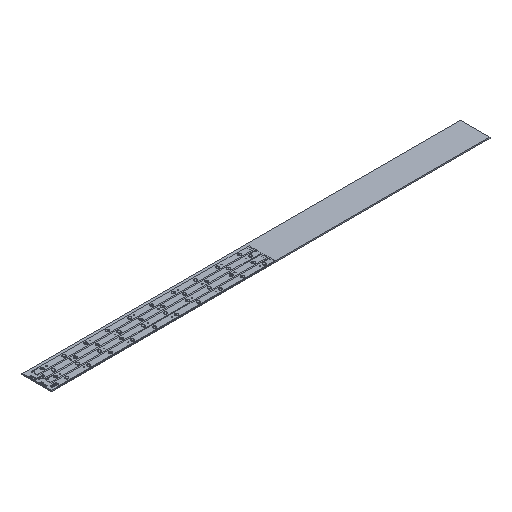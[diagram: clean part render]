
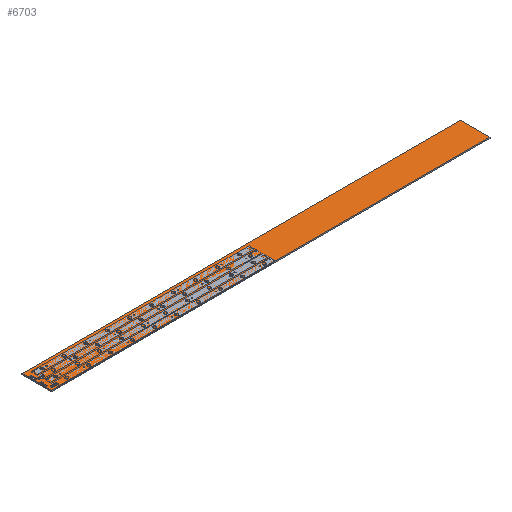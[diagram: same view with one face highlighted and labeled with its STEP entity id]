
A CAD part, isometric view. The second image highlights one B-rep face of the part: STEP entity #6703.
In plain terms, the highlighted planar face has unit normal (0, 0, 1).
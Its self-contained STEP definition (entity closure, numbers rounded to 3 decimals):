
#887=FACE_OUTER_BOUND('',#1257,.T.);
#1257=EDGE_LOOP('',(#4521,#4522,#4523,#4524));
#1719=LINE('',#9437,#2257);
#1723=LINE('',#9445,#2261);
#1726=LINE('',#9451,#2264);
#1729=LINE('',#9456,#2267);
#2257=VECTOR('',#7716,10.);
#2261=VECTOR('',#7722,10.);
#2264=VECTOR('',#7727,10.);
#2267=VECTOR('',#7732,10.);
#2795=VERTEX_POINT('',#9435);
#2796=VERTEX_POINT('',#9436);
#2799=VERTEX_POINT('',#9444);
#2801=VERTEX_POINT('',#9450);
#3479=EDGE_CURVE('',#2795,#2796,#1719,.T.);
#3483=EDGE_CURVE('',#2796,#2799,#1723,.T.);
#3486=EDGE_CURVE('',#2799,#2801,#1726,.T.);
#3489=EDGE_CURVE('',#2801,#2795,#1729,.T.);
#4521=ORIENTED_EDGE('',*,*,#3489,.T.);
#4522=ORIENTED_EDGE('',*,*,#3479,.T.);
#4523=ORIENTED_EDGE('',*,*,#3483,.T.);
#4524=ORIENTED_EDGE('',*,*,#3486,.T.);
#6561=PLANE('',#7124);
#6703=ADVANCED_FACE('',(#887),#6561,.T.);
#7124=AXIS2_PLACEMENT_3D('',#9458,#7734,#7735);
#7716=DIRECTION('',(1.,0.,0.));
#7722=DIRECTION('',(0.,1.,0.));
#7727=DIRECTION('',(-1.,0.,0.));
#7732=DIRECTION('',(0.,-1.,0.));
#7734=DIRECTION('center_axis',(0.,0.,1.));
#7735=DIRECTION('ref_axis',(1.,0.,0.));
#9435=CARTESIAN_POINT('',(6.989,38.446,0.));
#9436=CARTESIAN_POINT('',(3006.989,38.446,0.));
#9437=CARTESIAN_POINT('',(6.989,38.446,0.));
#9444=CARTESIAN_POINT('',(3006.989,238.446,0.));
#9445=CARTESIAN_POINT('',(3006.989,38.446,0.));
#9450=CARTESIAN_POINT('',(6.989,238.446,0.));
#9451=CARTESIAN_POINT('',(3006.989,238.446,0.));
#9456=CARTESIAN_POINT('',(6.989,238.446,0.));
#9458=CARTESIAN_POINT('Origin',(1506.989,138.446,0.));
